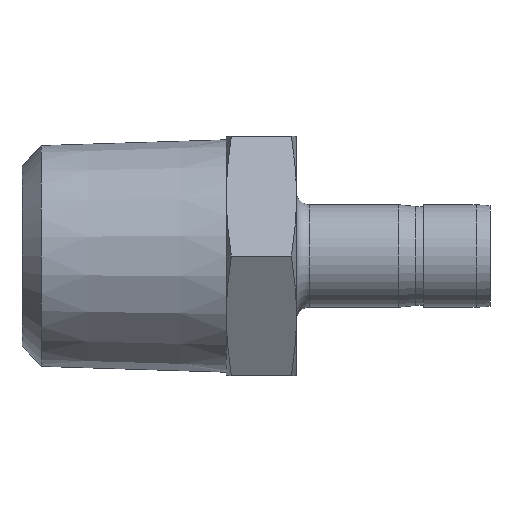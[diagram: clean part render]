
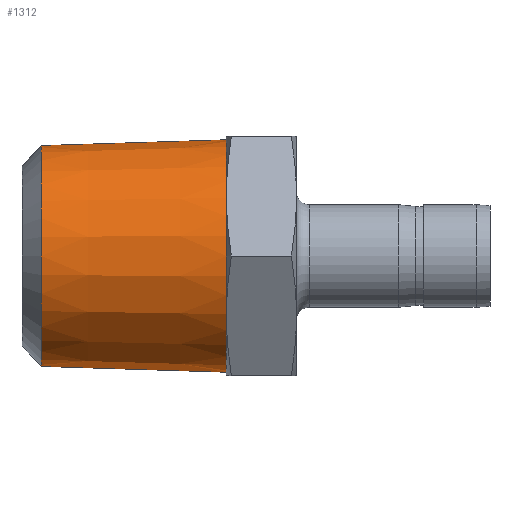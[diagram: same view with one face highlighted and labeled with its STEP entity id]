
A CAD part, front view. The second image highlights one B-rep face of the part: STEP entity #1312.
In plain terms, the highlighted conical face has half-angle 1.8 degrees and reference radius 10.459 mm.
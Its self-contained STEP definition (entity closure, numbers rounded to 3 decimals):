
#477 = DIRECTION ( 'NONE',  ( 0., 0., 1. ) ) ;
#478 = DIRECTION ( 'NONE',  ( 1., 0., 0. ) ) ;
#479 = AXIS2_PLACEMENT_3D ( 'NONE', #483, #478, #477 ) ;
#480 = CONICAL_SURFACE ( 'NONE', #479, 10.459, 0.031 ) ;
#483 = CARTESIAN_POINT ( 'NONE',  ( -10.87, 0., 0. ) ) ;
#484 = FACE_OUTER_BOUND ( 'NONE', #1290, .T. ) ;
#485 = CARTESIAN_POINT ( 'NONE',  ( 0., 0., 10.8 ) ) ;
#486 = DIRECTION ( 'NONE',  ( 1., 0., -0.031 ) ) ;
#487 = VECTOR ( 'NONE', #486, 1000. ) ;
#488 = CARTESIAN_POINT ( 'NONE',  ( -10.87, 0., -10.459 ) ) ;
#489 = LINE ( 'NONE', #488, #487 ) ;
#490 = CARTESIAN_POINT ( 'NONE',  ( -17.201, 0., -10.26 ) ) ;
#542 = CARTESIAN_POINT ( 'NONE',  ( -17.201, 0., 10.26 ) ) ;
#556 = DIRECTION ( 'NONE',  ( 0., 0., -1. ) ) ;
#557 = DIRECTION ( 'NONE',  ( -1., 0., 0. ) ) ;
#558 = CARTESIAN_POINT ( 'NONE',  ( 0., 0., 0. ) ) ;
#559 = AXIS2_PLACEMENT_3D ( 'NONE', #558, #557, #556 ) ;
#560 = CIRCLE ( 'NONE', #559, 10.8 ) ;
#569 = CARTESIAN_POINT ( 'NONE',  ( 0., 0., -10.8 ) ) ;
#579 = DIRECTION ( 'NONE',  ( 0., 0., -1. ) ) ;
#580 = DIRECTION ( 'NONE',  ( 1., 0., 0. ) ) ;
#581 = CARTESIAN_POINT ( 'NONE',  ( -17.201, 0., 0. ) ) ;
#582 = AXIS2_PLACEMENT_3D ( 'NONE', #581, #580, #579 ) ;
#583 = CIRCLE ( 'NONE', #582, 10.26 ) ;
#584 = DIRECTION ( 'NONE',  ( 1., 0., 0.031 ) ) ;
#585 = VECTOR ( 'NONE', #584, 1000. ) ;
#586 = CARTESIAN_POINT ( 'NONE',  ( -10.87, 0., 10.459 ) ) ;
#587 = LINE ( 'NONE', #586, #585 ) ;
#1281 = VERTEX_POINT ( 'NONE', #569 ) ;
#1285 = ORIENTED_EDGE ( 'NONE', *, *, #1349, .F. ) ;
#1287 = ORIENTED_EDGE ( 'NONE', *, *, #1351, .T. ) ;
#1288 = ORIENTED_EDGE ( 'NONE', *, *, #1289, .T. ) ;
#1289 = EDGE_CURVE ( 'NONE', #1281, #1311, #560, .T. ) ;
#1290 = EDGE_LOOP ( 'NONE', ( #1287, #1329, #1288, #1285 ) ) ;
#1296 = VERTEX_POINT ( 'NONE', #542 ) ;
#1299 = VERTEX_POINT ( 'NONE', #490 ) ;
#1310 = EDGE_CURVE ( 'NONE', #1299, #1281, #489, .T. ) ;
#1311 = VERTEX_POINT ( 'NONE', #485 ) ;
#1312 = ADVANCED_FACE ( 'NONE', ( #484 ), #480, .T. ) ;
#1329 = ORIENTED_EDGE ( 'NONE', *, *, #1310, .T. ) ;
#1349 = EDGE_CURVE ( 'NONE', #1296, #1311, #587, .T. ) ;
#1351 = EDGE_CURVE ( 'NONE', #1296, #1299, #583, .T. ) ;
